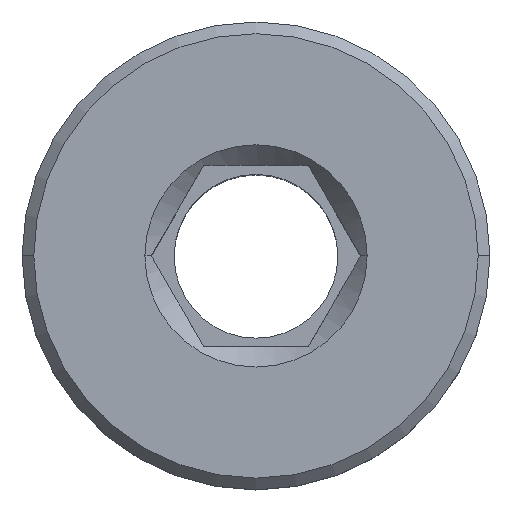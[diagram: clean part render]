
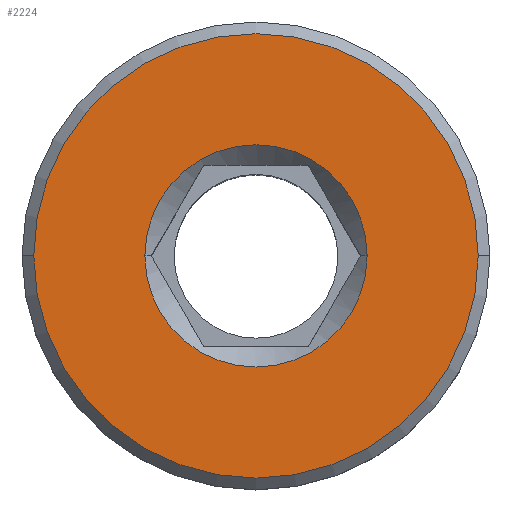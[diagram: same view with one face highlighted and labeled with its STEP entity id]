
A CAD part, top view. The second image highlights one B-rep face of the part: STEP entity #2224.
In plain terms, the highlighted planar face has unit normal (0, 0, 1).
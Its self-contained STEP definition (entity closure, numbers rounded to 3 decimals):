
#8 = AXIS2_PLACEMENT_3D ( 'NONE', #2179, #2193, #1141 ) ;
#66 = ORIENTED_EDGE ( 'NONE', *, *, #289, .T. ) ;
#280 = AXIS2_PLACEMENT_3D ( 'NONE', #1436, #1380, #929 ) ;
#289 = EDGE_CURVE ( 'NONE', #2141, #2246, #576, .T. ) ;
#306 = DIRECTION ( 'NONE',  ( 1., 0., 0. ) ) ;
#361 = DIRECTION ( 'NONE',  ( 1., 0., 0. ) ) ;
#373 = CIRCLE ( 'NONE', #8, 3.8 ) ;
#489 = ORIENTED_EDGE ( 'NONE', *, *, #1123, .T. ) ;
#576 = CIRCLE ( 'NONE', #601, 1.9 ) ;
#601 = AXIS2_PLACEMENT_3D ( 'NONE', #2012, #2066, #306 ) ;
#608 = FACE_BOUND ( 'NONE', #1880, .T. ) ;
#627 = ORIENTED_EDGE ( 'NONE', *, *, #691, .T. ) ;
#691 = EDGE_CURVE ( 'NONE', #2186, #1297, #373, .T. ) ;
#723 = AXIS2_PLACEMENT_3D ( 'NONE', #2208, #1059, #361 ) ;
#733 = CIRCLE ( 'NONE', #723, 3.8 ) ;
#760 = EDGE_CURVE ( 'NONE', #1297, #2186, #733, .T. ) ;
#901 = CARTESIAN_POINT ( 'NONE',  ( -3.8, 0., 0. ) ) ;
#929 = DIRECTION ( 'NONE',  ( 1., 0., 0. ) ) ;
#942 = CIRCLE ( 'NONE', #280, 1.9 ) ;
#1025 = FACE_OUTER_BOUND ( 'NONE', #2020, .T. ) ;
#1044 = CARTESIAN_POINT ( 'NONE',  ( 1.9, 0., 0. ) ) ;
#1059 = DIRECTION ( 'NONE',  ( 0., 0., 1. ) ) ;
#1123 = EDGE_CURVE ( 'NONE', #2246, #2141, #942, .T. ) ;
#1141 = DIRECTION ( 'NONE',  ( 1., 0., 0. ) ) ;
#1183 = DIRECTION ( 'NONE',  ( 1., 0., 0. ) ) ;
#1190 = CARTESIAN_POINT ( 'NONE',  ( -1.9, 0., 0. ) ) ;
#1221 = PLANE ( 'NONE',  #2050 ) ;
#1297 = VERTEX_POINT ( 'NONE', #901 ) ;
#1380 = DIRECTION ( 'NONE',  ( 0., 0., -1. ) ) ;
#1391 = CARTESIAN_POINT ( 'NONE',  ( 4., 0., 0. ) ) ;
#1436 = CARTESIAN_POINT ( 'NONE',  ( 0., 0., 0. ) ) ;
#1492 = ORIENTED_EDGE ( 'NONE', *, *, #760, .T. ) ;
#1556 = DIRECTION ( 'NONE',  ( 0., 0., 1. ) ) ;
#1880 = EDGE_LOOP ( 'NONE', ( #489, #66 ) ) ;
#2012 = CARTESIAN_POINT ( 'NONE',  ( 0., 0., 0. ) ) ;
#2020 = EDGE_LOOP ( 'NONE', ( #1492, #627 ) ) ;
#2050 = AXIS2_PLACEMENT_3D ( 'NONE', #1391, #1556, #1183 ) ;
#2066 = DIRECTION ( 'NONE',  ( 0., 0., -1. ) ) ;
#2077 = CARTESIAN_POINT ( 'NONE',  ( 3.8, 0., 0. ) ) ;
#2141 = VERTEX_POINT ( 'NONE', #1190 ) ;
#2179 = CARTESIAN_POINT ( 'NONE',  ( 0., 0., 0. ) ) ;
#2186 = VERTEX_POINT ( 'NONE', #2077 ) ;
#2193 = DIRECTION ( 'NONE',  ( 0., 0., 1. ) ) ;
#2208 = CARTESIAN_POINT ( 'NONE',  ( 0., 0., 0. ) ) ;
#2224 = ADVANCED_FACE ( 'NONE', ( #1025, #608 ), #1221, .T. ) ;
#2246 = VERTEX_POINT ( 'NONE', #1044 ) ;
